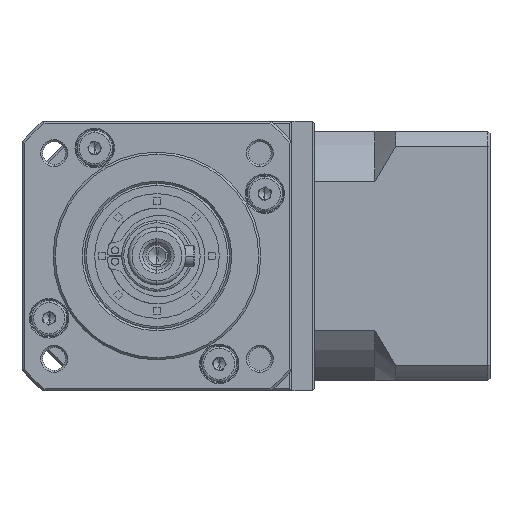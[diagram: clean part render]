
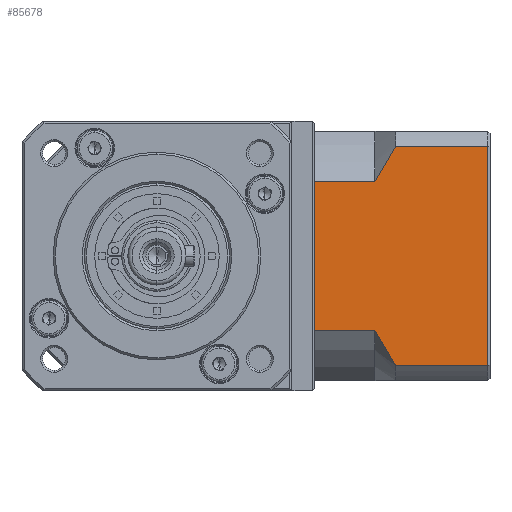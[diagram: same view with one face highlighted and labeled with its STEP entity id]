
A CAD part, left-side view. The second image highlights one B-rep face of the part: STEP entity #85678.
In plain terms, the highlighted planar face has unit normal (-1, 0, 0).
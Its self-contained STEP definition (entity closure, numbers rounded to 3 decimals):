
#1605 = EDGE_CURVE ( 'NONE', #19576, #76096, #46184, .T. ) ;
#1867 = CARTESIAN_POINT ( 'NONE',  ( -27.429, -66.234, -135.581 ) ) ;
#2412 = CARTESIAN_POINT ( 'NONE',  ( -27.429, -71.234, -144.01 ) ) ;
#6536 = VERTEX_POINT ( 'NONE', #55206 ) ;
#6671 = DIRECTION ( 'NONE',  ( 0., 1., 0. ) ) ;
#7561 = CARTESIAN_POINT ( 'NONE',  ( -27.429, -93.434, -91.095 ) ) ;
#8171 = ORIENTED_EDGE ( 'NONE', *, *, #126116, .T. ) ;
#8701 = CARTESIAN_POINT ( 'NONE',  ( -27.429, -93.434, -144.01 ) ) ;
#10619 = VECTOR ( 'NONE', #34982, 1000. ) ;
#12622 = VECTOR ( 'NONE', #160777, 1000. ) ;
#16618 = LINE ( 'NONE', #142479, #111080 ) ;
#18533 = CARTESIAN_POINT ( 'NONE',  ( -27.429, -93.434, -147.553 ) ) ;
#19576 = VERTEX_POINT ( 'NONE', #133619 ) ;
#21023 = CARTESIAN_POINT ( 'NONE',  ( -27.429, -66.234, -135.581 ) ) ;
#23883 = AXIS2_PLACEMENT_3D ( 'NONE', #160740, #83524, #6671 ) ;
#23999 = EDGE_CURVE ( 'NONE', #152451, #76096, #130005, .T. ) ;
#25709 = ORIENTED_EDGE ( 'NONE', *, *, #110995, .T. ) ;
#31046 = VECTOR ( 'NONE', #89870, 1000. ) ;
#34251 = DIRECTION ( 'NONE',  ( 0., -1., 0. ) ) ;
#34982 = DIRECTION ( 'NONE',  ( 0., 1., 0. ) ) ;
#35080 = EDGE_CURVE ( 'NONE', #152451, #120797, #16618, .T. ) ;
#36374 = EDGE_CURVE ( 'NONE', #58750, #6536, #68580, .T. ) ;
#45048 = CARTESIAN_POINT ( 'NONE',  ( -27.429, -51.734, -135.581 ) ) ;
#45581 = CARTESIAN_POINT ( 'NONE',  ( -27.429, -67.785, -96.642 ) ) ;
#46184 = LINE ( 'NONE', #111320, #114671 ) ;
#47059 = ORIENTED_EDGE ( 'NONE', *, *, #36374, .T. ) ;
#50714 = LINE ( 'NONE', #18533, #12622 ) ;
#50777 = VECTOR ( 'NONE', #73954, 1000. ) ;
#51345 = ORIENTED_EDGE ( 'NONE', *, *, #23999, .T. ) ;
#53394 = VERTEX_POINT ( 'NONE', #8701 ) ;
#53422 = CARTESIAN_POINT ( 'NONE',  ( -27.429, -66.984, -137.037 ) ) ;
#55206 = CARTESIAN_POINT ( 'NONE',  ( -27.429, -71.234, -144.01 ) ) ;
#57580 = ORIENTED_EDGE ( 'NONE', *, *, #1605, .F. ) ;
#57952 = EDGE_CURVE ( 'NONE', #53394, #6536, #84971, .T. ) ;
#58475 = EDGE_CURVE ( 'NONE', #58750, #128359, #147450, .T. ) ;
#58501 = CARTESIAN_POINT ( 'NONE',  ( -27.429, -66.234, -99.525 ) ) ;
#58750 = VERTEX_POINT ( 'NONE', #70226 ) ;
#66361 = CARTESIAN_POINT ( 'NONE',  ( -27.429, -67.784, -138.463 ) ) ;
#68580 = B_SPLINE_CURVE_WITH_KNOTS ( 'NONE', 3,
 ( #1867, #53422, #66361, #156469, #79323, #2412 ),
 .UNSPECIFIED., .F., .F.,
 ( 4, 2, 4 ),
 ( 0.1, 0.104, 0.109 ),
 .UNSPECIFIED. ) ;
#69270 = LINE ( 'NONE', #102870, #31046 ) ;
#70226 = CARTESIAN_POINT ( 'NONE',  ( -27.429, -66.234, -135.581 ) ) ;
#73954 = DIRECTION ( 'NONE',  ( 0., 1., 0. ) ) ;
#76096 = VERTEX_POINT ( 'NONE', #110126 ) ;
#79323 = CARTESIAN_POINT ( 'NONE',  ( -27.429, -70.332, -142.648 ) ) ;
#83524 = DIRECTION ( 'NONE',  ( 1., 0., 0. ) ) ;
#84971 = LINE ( 'NONE', #125228, #50777 ) ;
#85678 = ADVANCED_FACE ( 'NONE', ( #95589 ), #108942, .F. ) ;
#89870 = DIRECTION ( 'NONE',  ( 0., 0., -1. ) ) ;
#91252 = DIRECTION ( 'NONE',  ( 0., -1., 0. ) ) ;
#95589 = FACE_OUTER_BOUND ( 'NONE', #95987, .T. ) ;
#95987 = EDGE_LOOP ( 'NONE', ( #150122, #25709, #104951, #51345, #57580, #8171, #137835, #47059 ) ) ;
#102870 = CARTESIAN_POINT ( 'NONE',  ( -27.429, -51.734, -147.553 ) ) ;
#104951 = ORIENTED_EDGE ( 'NONE', *, *, #35080, .F. ) ;
#108942 = PLANE ( 'NONE',  #23883 ) ;
#109760 = CARTESIAN_POINT ( 'NONE',  ( -27.429, -70.334, -92.455 ) ) ;
#110126 = CARTESIAN_POINT ( 'NONE',  ( -27.429, -66.234, -99.525 ) ) ;
#110995 = EDGE_CURVE ( 'NONE', #53394, #120797, #50714, .T. ) ;
#111080 = VECTOR ( 'NONE', #91252, 1000. ) ;
#111320 = CARTESIAN_POINT ( 'NONE',  ( -27.429, -66.234, -99.525 ) ) ;
#114671 = VECTOR ( 'NONE', #34251, 1000. ) ;
#120797 = VERTEX_POINT ( 'NONE', #7561 ) ;
#122193 = CARTESIAN_POINT ( 'NONE',  ( -27.429, -69.461, -93.834 ) ) ;
#122755 = CARTESIAN_POINT ( 'NONE',  ( -27.429, -71.234, -91.095 ) ) ;
#125228 = CARTESIAN_POINT ( 'NONE',  ( -27.429, -66.234, -144.01 ) ) ;
#126116 = EDGE_CURVE ( 'NONE', #19576, #128359, #69270, .T. ) ;
#128359 = VERTEX_POINT ( 'NONE', #45048 ) ;
#130005 = B_SPLINE_CURVE_WITH_KNOTS ( 'NONE', 3,
 ( #122755, #109760, #122193, #45581, #135663, #58501 ),
 .UNSPECIFIED., .F., .F.,
 ( 4, 2, 4 ),
 ( 0.052, 0.057, 0.062 ),
 .UNSPECIFIED. ) ;
#133619 = CARTESIAN_POINT ( 'NONE',  ( -27.429, -51.734, -99.525 ) ) ;
#135663 = CARTESIAN_POINT ( 'NONE',  ( -27.429, -66.982, -98.073 ) ) ;
#137835 = ORIENTED_EDGE ( 'NONE', *, *, #58475, .F. ) ;
#142479 = CARTESIAN_POINT ( 'NONE',  ( -27.429, -66.234, -91.095 ) ) ;
#147450 = LINE ( 'NONE', #21023, #10619 ) ;
#150122 = ORIENTED_EDGE ( 'NONE', *, *, #57952, .F. ) ;
#152451 = VERTEX_POINT ( 'NONE', #163873 ) ;
#156469 = CARTESIAN_POINT ( 'NONE',  ( -27.429, -69.458, -141.268 ) ) ;
#160740 = CARTESIAN_POINT ( 'NONE',  ( -27.429, -93.934, -147.553 ) ) ;
#160777 = DIRECTION ( 'NONE',  ( 0., 0., 1. ) ) ;
#163873 = CARTESIAN_POINT ( 'NONE',  ( -27.429, -71.234, -91.095 ) ) ;
